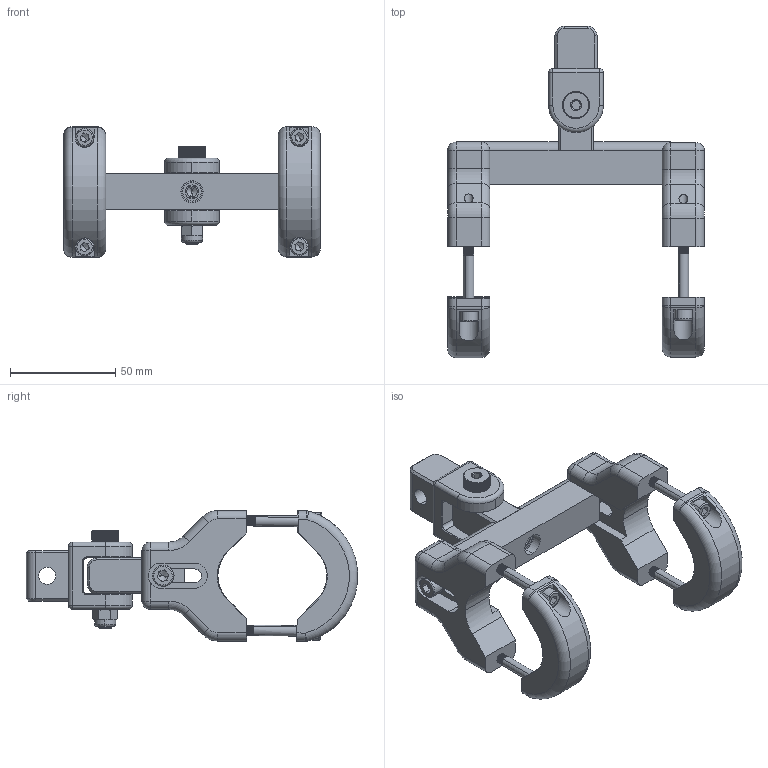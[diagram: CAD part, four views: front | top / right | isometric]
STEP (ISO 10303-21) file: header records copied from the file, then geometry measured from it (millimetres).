
FILE_DESCRIPTION((''),'2;1');
FILE_NAME('6158122000_ASM','2016-11-17T',('greextsd'),(''),'CREO PARAMETRIC BY PTC INC, 2016130','CREO PARAMETRIC BY PTC INC, 2016130','');
FILE_SCHEMA(('AUTOMOTIVE_DESIGN { 1 0 10303 214 1 1 1 1 }'));
Length unit declared in the file: millimetre
Products named in the file (12): 6158121820; 6158121790; 6158121930; 6158121860; 6158121800; 6158121690; 6158121900; 6158121870; 6158121810; 6158121760; 6158121880; 6158122000_ASM
Assembly tree (18 placements, depth 2):
  6158122000_ASM
    6158121820  x2
    6158121790  x2
    6158121930  x4
    6158121860
    6158121800
    6158121690  x2
    6158121900
    6158121870
    6158121810  x2
    6158121760
    6158121880
Bounding box: 122.2 x 157.33 x 62.21 mm (x, y, z)
Volume: 166366.6 mm3; surface area: 57094.8 mm2
Topology: 18 solids, 18 shells, 1838 faces, 4104 edges, 2280 vertices
Faces by surface type: cone 1130, plane 450, cylinder 186, torus 52, sphere 20
Entity records: 41252 total; most frequent: CARTESIAN_POINT 5996, DIRECTION 5018, ORIENTED_EDGE 4708, PRESENTATION_STYLE_ASSIGNMENT 2505, STYLED_ITEM 2483, CURVE_STYLE 2354, EDGE_CURVE 2354, AXIS2_PLACEMENT_3D 1862
